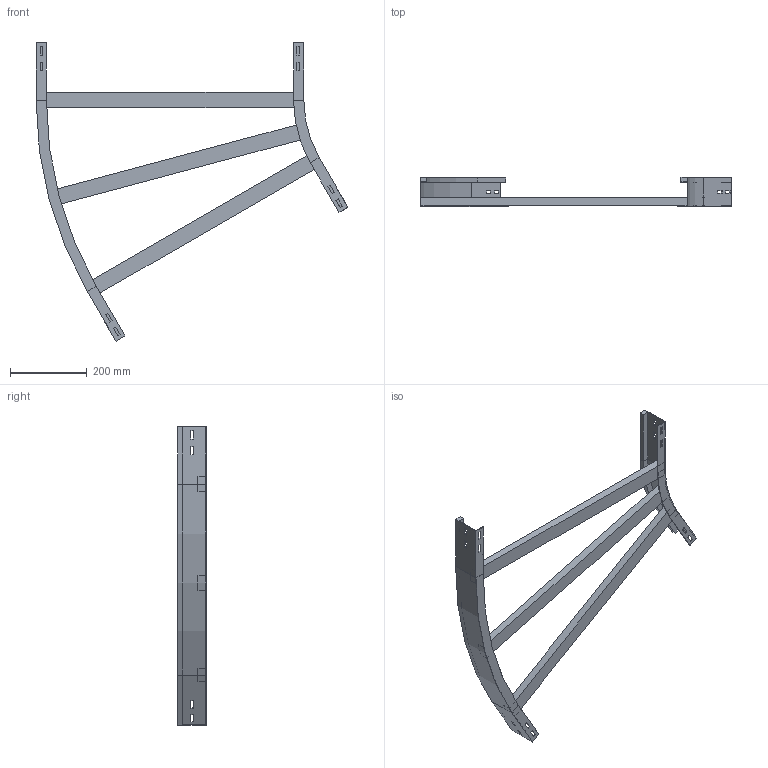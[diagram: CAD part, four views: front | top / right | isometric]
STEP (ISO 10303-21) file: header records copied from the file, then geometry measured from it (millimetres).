
FILE_DESCRIPTION (( 'STEP AP214' ), '1' );
FILE_NAME ('A2_12B3C700.step', '2025-02-21T15:10:51', ( '' ), ( '' ), 'SwSTEP 2.0', 'SolidWorks 2023', '' );
FILE_SCHEMA (( 'AUTOMOTIVE_DESIGN' ));
Length unit declared in the file: millimetre
Products named in the file (4): A2_LONGH.INTERNO 30°_H75_R300; TRAVERSINO_700; A2_12B3C700; A2_LONGH.ESTERNO 30°_H75_R300+700
Assembly tree (5 placements, depth 2):
  A2_12B3C700
    A2_LONGH.INTERNO 30°_H75_R300
    A2_LONGH.ESTERNO 30°_H75_R300+700
    TRAVERSINO_700  x3
Bounding box: 815.19 x 75 x 779.9 mm (x, y, z)
Volume: 2188377.9 mm3; surface area: 558244.1 mm2
Topology: 5 solids, 5 shells, 134 faces, 340 edges, 216 vertices
Faces by surface type: plane 126, cylinder 8
Entity records: 3821 total; most frequent: CARTESIAN_POINT 646, ORIENTED_EDGE 632, DIRECTION 592, EDGE_CURVE 316, LINE 300, VECTOR 300, VERTEX_POINT 200, EDGE_LOOP 154
